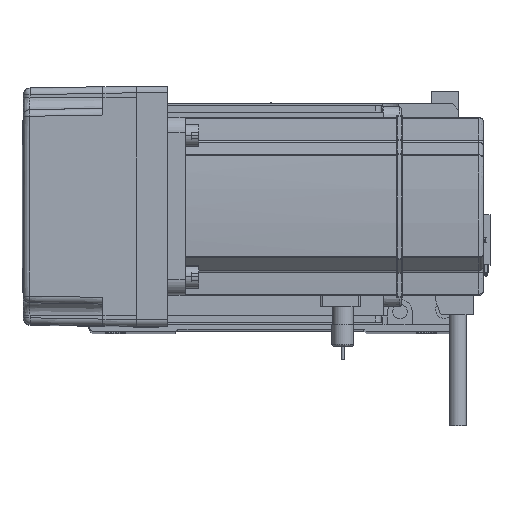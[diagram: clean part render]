
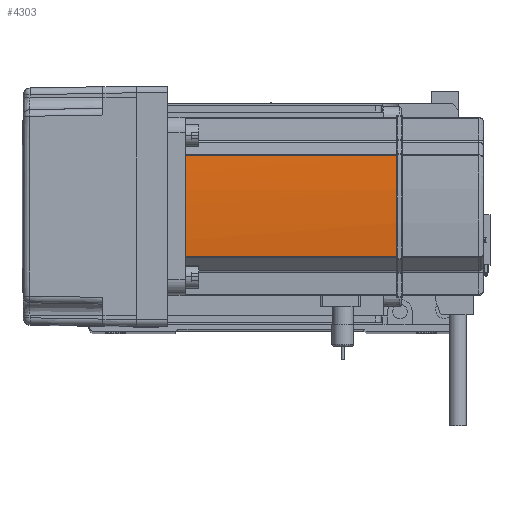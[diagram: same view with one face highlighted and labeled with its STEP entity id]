
A CAD part, top view. The second image highlights one B-rep face of the part: STEP entity #4303.
In plain terms, the highlighted cylindrical face has radius 270 mm (diameter 540 mm), a partial arc.
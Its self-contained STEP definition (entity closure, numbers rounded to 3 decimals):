
#699 = DIRECTION ( 'NONE',  ( 0., 0., -1. ) ) ;
#1473 = DIRECTION ( 'NONE',  ( -1., 0., 0. ) ) ;
#1651 = CARTESIAN_POINT ( 'NONE',  ( 39.042, 22.724, 58. ) ) ;
#1978 = LINE ( 'NONE', #1651, #44253 ) ;
#4303 = ADVANCED_FACE ( 'NONE', ( #35580 ), #22608, .T. ) ;
#4969 = ORIENTED_EDGE ( 'NONE', *, *, #25105, .T. ) ;
#7409 = CARTESIAN_POINT ( 'NONE',  ( 39.042, -22.724, 58. ) ) ;
#8460 = DIRECTION ( 'NONE',  ( 0., 0., -1. ) ) ;
#8842 = CARTESIAN_POINT ( 'NONE',  ( 39.042, 22.724, 39. ) ) ;
#8909 = EDGE_CURVE ( 'NONE', #12425, #43334, #50083, .T. ) ;
#9431 = VERTEX_POINT ( 'NONE', #16854 ) ;
#9621 = VERTEX_POINT ( 'NONE', #39694 ) ;
#9787 = DIRECTION ( 'NONE',  ( 0., 0., 1. ) ) ;
#10634 = CARTESIAN_POINT ( 'NONE',  ( 40., 0.042, 134. ) ) ;
#11773 = CIRCLE ( 'NONE', #17842, 270. ) ;
#12425 = VERTEX_POINT ( 'NONE', #21414 ) ;
#15070 = ORIENTED_EDGE ( 'NONE', *, *, #8909, .T. ) ;
#16105 = AXIS2_PLACEMENT_3D ( 'NONE', #26807, #699, #31186 ) ;
#16587 = DIRECTION ( 'NONE',  ( -1., 0., 0. ) ) ;
#16854 = CARTESIAN_POINT ( 'NONE',  ( 40., -0.127, 134. ) ) ;
#17591 = ORIENTED_EDGE ( 'NONE', *, *, #55548, .F. ) ;
#17842 = AXIS2_PLACEMENT_3D ( 'NONE', #21496, #8460, #43416 ) ;
#18439 = EDGE_CURVE ( 'NONE', #42248, #12425, #1978, .T. ) ;
#19824 = CARTESIAN_POINT ( 'NONE',  ( 40., -0.042, 134. ) ) ;
#19944 = CARTESIAN_POINT ( 'NONE',  ( 39.042, -22.724, 134. ) ) ;
#20595 = CARTESIAN_POINT ( 'NONE',  ( -230., 0., 58. ) ) ;
#21414 = CARTESIAN_POINT ( 'NONE',  ( 39.042, 22.724, 134. ) ) ;
#21496 = CARTESIAN_POINT ( 'NONE',  ( -230., 0., 39. ) ) ;
#22608 = CYLINDRICAL_SURFACE ( 'NONE', #42472, 270. ) ;
#24101 = CARTESIAN_POINT ( 'NONE',  ( 40., 0.127, 134. ) ) ;
#24304 = VECTOR ( 'NONE', #47681, 1000. ) ;
#25105 = EDGE_CURVE ( 'NONE', #48088, #9621, #54961, .T. ) ;
#26807 = CARTESIAN_POINT ( 'NONE',  ( -230., 0., 134. ) ) ;
#27943 = B_SPLINE_CURVE_WITH_KNOTS ( 'NONE', 3,
 ( #54291, #19824, #10634, #45747 ),
 .UNSPECIFIED., .F., .F.,
 ( 4, 4 ),
 ( 0., 1. ),
 .UNSPECIFIED. ) ;
#29152 = DIRECTION ( 'NONE',  ( 0., 0., -1. ) ) ;
#29321 = CIRCLE ( 'NONE', #16105, 270. ) ;
#29818 = ORIENTED_EDGE ( 'NONE', *, *, #47886, .T. ) ;
#31186 = DIRECTION ( 'NONE',  ( -1., 0., 0. ) ) ;
#34280 = EDGE_CURVE ( 'NONE', #9431, #43334, #27943, .T. ) ;
#35580 = FACE_OUTER_BOUND ( 'NONE', #54255, .T. ) ;
#35604 = ORIENTED_EDGE ( 'NONE', *, *, #34280, .F. ) ;
#39694 = CARTESIAN_POINT ( 'NONE',  ( 39.042, -22.724, 39. ) ) ;
#40407 = ORIENTED_EDGE ( 'NONE', *, *, #18439, .T. ) ;
#42248 = VERTEX_POINT ( 'NONE', #8842 ) ;
#42472 = AXIS2_PLACEMENT_3D ( 'NONE', #20595, #29152, #16587 ) ;
#42500 = CARTESIAN_POINT ( 'NONE',  ( -230., 0., 134. ) ) ;
#43334 = VERTEX_POINT ( 'NONE', #24101 ) ;
#43416 = DIRECTION ( 'NONE',  ( -1., 0., 0. ) ) ;
#44253 = VECTOR ( 'NONE', #9787, 1000. ) ;
#45747 = CARTESIAN_POINT ( 'NONE',  ( 40., 0.127, 134. ) ) ;
#47681 = DIRECTION ( 'NONE',  ( 0., 0., -1. ) ) ;
#47886 = EDGE_CURVE ( 'NONE', #9431, #48088, #29321, .T. ) ;
#48088 = VERTEX_POINT ( 'NONE', #19944 ) ;
#50000 = AXIS2_PLACEMENT_3D ( 'NONE', #42500, #56346, #1473 ) ;
#50083 = CIRCLE ( 'NONE', #50000, 270. ) ;
#54255 = EDGE_LOOP ( 'NONE', ( #4969, #17591, #40407, #15070, #35604, #29818 ) ) ;
#54291 = CARTESIAN_POINT ( 'NONE',  ( 40., -0.127, 134. ) ) ;
#54961 = LINE ( 'NONE', #7409, #24304 ) ;
#55548 = EDGE_CURVE ( 'NONE', #42248, #9621, #11773, .T. ) ;
#56346 = DIRECTION ( 'NONE',  ( 0., 0., -1. ) ) ;
